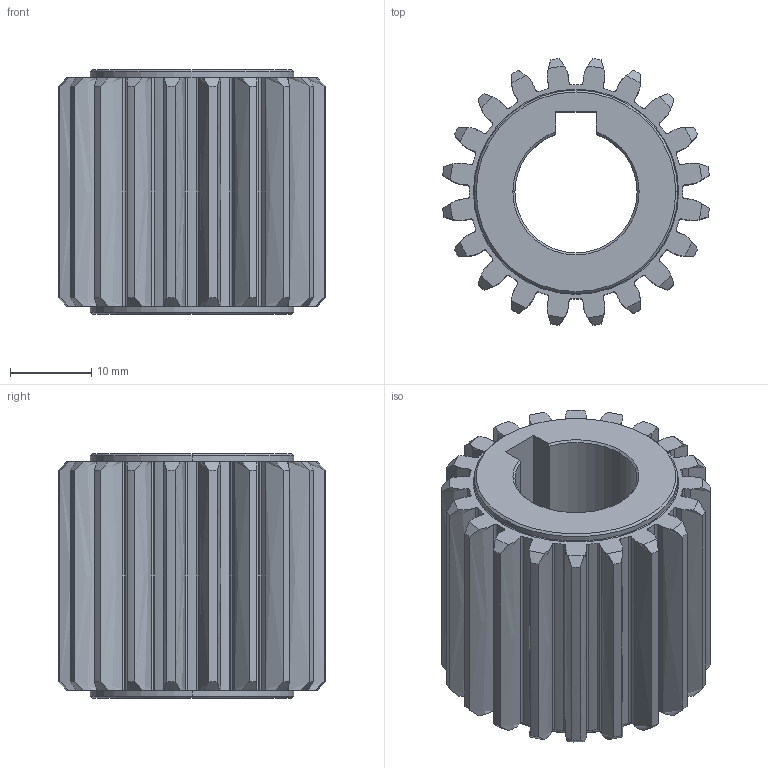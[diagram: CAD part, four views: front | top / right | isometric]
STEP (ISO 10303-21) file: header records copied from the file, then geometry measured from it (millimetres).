
FILE_DESCRIPTION (( 'STEP AP214' ), '1' );
FILE_NAME ('1SG__S015020S.STEP', '2021-08-03T07:22:27', ( '' ), ( '' ), 'SwSTEP 2.0', 'SolidWorks 2021', '' );
FILE_SCHEMA (( 'AUTOMOTIVE_DESIGN' ));
Length unit declared in the file: millimetre
Products named in the file (1): 1SG__S015020S
Bounding box: 32.74 x 32.74 x 30 mm (x, y, z)
Volume: 14610.6 mm3; surface area: 8019.8 mm2
Topology: 1 solids, 1 shells, 218 faces, 666 edges, 452 vertices
Faces by surface type: cylinder 77, bspline 60, cone 50, plane 27, torus 4
Entity records: 12232 total; most frequent: CARTESIAN_POINT 6469, ORIENTED_EDGE 1332, DIRECTION 1068, EDGE_CURVE 666, VERTEX_POINT 452, AXIS2_PLACEMENT_3D 407, VECTOR 254, LINE 254
